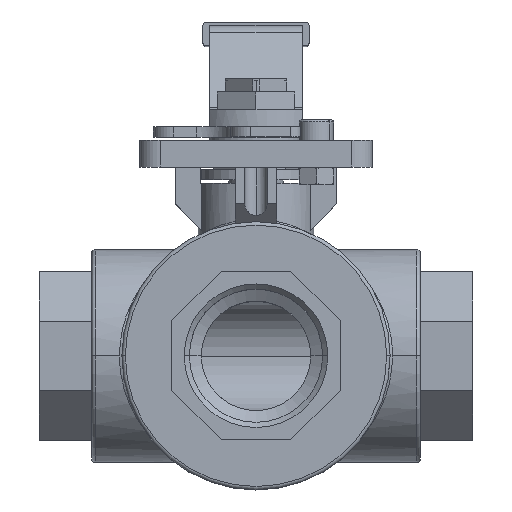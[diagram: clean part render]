
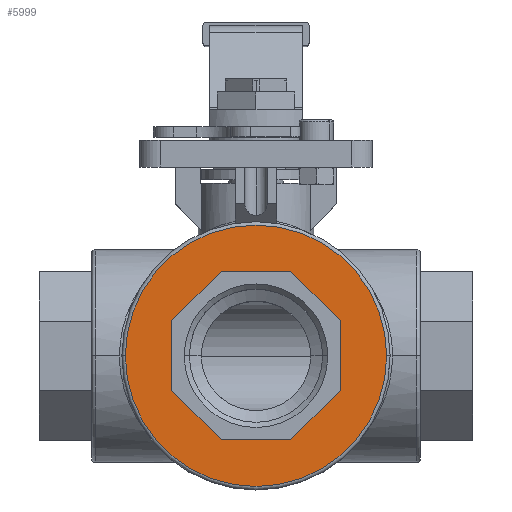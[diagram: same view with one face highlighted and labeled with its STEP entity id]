
A CAD part, top view. The second image highlights one B-rep face of the part: STEP entity #5999.
In plain terms, the highlighted planar face has unit normal (0, 0, 1).
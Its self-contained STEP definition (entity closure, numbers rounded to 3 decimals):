
#257 = VERTEX_POINT ( 'NONE', #2790 ) ;
#258 = VERTEX_POINT ( 'NONE', #2791 ) ;
#259 = VERTEX_POINT ( 'NONE', #2792 ) ;
#260 = VERTEX_POINT ( 'NONE', #2793 ) ;
#261 = VERTEX_POINT ( 'NONE', #2794 ) ;
#262 = VERTEX_POINT ( 'NONE', #2795 ) ;
#263 = VERTEX_POINT ( 'NONE', #2796 ) ;
#264 = VERTEX_POINT ( 'NONE', #2797 ) ;
#1187 = EDGE_LOOP ( 'NONE', ( #4721, #4720, #4719, #4718, #4717, #4716, #4715, #4714 ) ) ;
#1211 = EDGE_LOOP ( 'NONE', ( #4723, #4722 ) ) ;
#1866 = CARTESIAN_POINT ( 'NONE',  ( 10.19, 24.6, 48.15 ) ) ;
#1893 = LINE ( 'NONE', #1901, #7583 ) ;
#1894 = LINE ( 'NONE', #1904, #7585 ) ;
#1895 = LINE ( 'NONE', #1866, #7573 ) ;
#1896 = CARTESIAN_POINT ( 'NONE',  ( 0., 0., 48.15 ) ) ;
#1897 = DIRECTION ( 'NONE',  ( 0., 0., 1. ) ) ;
#1898 = DIRECTION ( 'NONE',  ( 1., 0., 0. ) ) ;
#1899 = LINE ( 'NONE', #1907, #7586 ) ;
#1900 = DIRECTION ( 'NONE',  ( -1., 0., 0. ) ) ;
#1901 = CARTESIAN_POINT ( 'NONE',  ( 24.6, 10.19, 48.15 ) ) ;
#1902 = LINE ( 'NONE', #1910, #7587 ) ;
#1903 = DIRECTION ( 'NONE',  ( -0.707, 0.707, 0. ) ) ;
#1904 = CARTESIAN_POINT ( 'NONE',  ( 24.6, -10.19, 48.15 ) ) ;
#1905 = LINE ( 'NONE', #1913, #7588 ) ;
#1906 = DIRECTION ( 'NONE',  ( 0., 1., 0. ) ) ;
#1907 = CARTESIAN_POINT ( 'NONE',  ( 10.19, -24.6, 48.15 ) ) ;
#1908 = LINE ( 'NONE', #1915, #7589 ) ;
#1909 = DIRECTION ( 'NONE',  ( 0.707, 0.707, 0. ) ) ;
#1910 = CARTESIAN_POINT ( 'NONE',  ( -10.19, -24.6, 48.15 ) ) ;
#1911 = LINE ( 'NONE', #1917, #7590 ) ;
#1912 = DIRECTION ( 'NONE',  ( 1., 0., 0. ) ) ;
#1913 = CARTESIAN_POINT ( 'NONE',  ( -24.6, -10.19, 48.15 ) ) ;
#1914 = DIRECTION ( 'NONE',  ( 0.707, -0.707, 0. ) ) ;
#1915 = CARTESIAN_POINT ( 'NONE',  ( -24.6, 10.19, 48.15 ) ) ;
#1916 = DIRECTION ( 'NONE',  ( 0., -1., 0. ) ) ;
#1917 = CARTESIAN_POINT ( 'NONE',  ( -10.19, 24.6, 48.15 ) ) ;
#1918 = DIRECTION ( 'NONE',  ( -0.707, -0.707, 0. ) ) ;
#2790 = CARTESIAN_POINT ( 'NONE',  ( 10.19, 24.6, 48.15 ) ) ;
#2791 = CARTESIAN_POINT ( 'NONE',  ( 10.19, -24.6, 48.15 ) ) ;
#2792 = CARTESIAN_POINT ( 'NONE',  ( -10.19, -24.6, 48.15 ) ) ;
#2793 = CARTESIAN_POINT ( 'NONE',  ( -10.19, 24.6, 48.15 ) ) ;
#2794 = CARTESIAN_POINT ( 'NONE',  ( 24.6, 10.19, 48.15 ) ) ;
#2795 = CARTESIAN_POINT ( 'NONE',  ( 24.6, -10.19, 48.15 ) ) ;
#2796 = CARTESIAN_POINT ( 'NONE',  ( -24.6, -10.19, 48.15 ) ) ;
#2797 = CARTESIAN_POINT ( 'NONE',  ( -24.6, 10.19, 48.15 ) ) ;
#3025 = CARTESIAN_POINT ( 'NONE',  ( 38.2, 0., 48.15 ) ) ;
#3026 = CARTESIAN_POINT ( 'NONE',  ( -38.2, 0., 48.15 ) ) ;
#3850 = CARTESIAN_POINT ( 'NONE',  ( 0., 0., 48.15 ) ) ;
#3851 = DIRECTION ( 'NONE',  ( 0., 0., 1. ) ) ;
#3852 = DIRECTION ( 'NONE',  ( 1., 0., 0. ) ) ;
#4653 = VERTEX_POINT ( 'NONE', #3025 ) ;
#4654 = VERTEX_POINT ( 'NONE', #3026 ) ;
#4714 = ORIENTED_EDGE ( 'NONE', *, *, #5561, .F. ) ;
#4715 = ORIENTED_EDGE ( 'NONE', *, *, #5560, .F. ) ;
#4716 = ORIENTED_EDGE ( 'NONE', *, *, #5559, .F. ) ;
#4717 = ORIENTED_EDGE ( 'NONE', *, *, #5558, .F. ) ;
#4718 = ORIENTED_EDGE ( 'NONE', *, *, #5557, .F. ) ;
#4719 = ORIENTED_EDGE ( 'NONE', *, *, #5556, .F. ) ;
#4720 = ORIENTED_EDGE ( 'NONE', *, *, #5555, .F. ) ;
#4721 = ORIENTED_EDGE ( 'NONE', *, *, #5554, .F. ) ;
#4722 = ORIENTED_EDGE ( 'NONE', *, *, #5553, .T. ) ;
#4723 = ORIENTED_EDGE ( 'NONE', *, *, #5755, .T. ) ;
#5553 = EDGE_CURVE ( 'NONE', #4654, #4653, #7582, .T. ) ;
#5554 = EDGE_CURVE ( 'NONE', #257, #260, #1895, .T. ) ;
#5555 = EDGE_CURVE ( 'NONE', #261, #257, #1893, .T. ) ;
#5556 = EDGE_CURVE ( 'NONE', #262, #261, #1894, .T. ) ;
#5557 = EDGE_CURVE ( 'NONE', #258, #262, #1899, .T. ) ;
#5558 = EDGE_CURVE ( 'NONE', #259, #258, #1902, .T. ) ;
#5559 = EDGE_CURVE ( 'NONE', #263, #259, #1905, .T. ) ;
#5560 = EDGE_CURVE ( 'NONE', #264, #263, #1908, .T. ) ;
#5561 = EDGE_CURVE ( 'NONE', #260, #264, #1911, .T. ) ;
#5755 = EDGE_CURVE ( 'NONE', #4653, #4654, #7839, .T. ) ;
#5999 = ADVANCED_FACE ( 'NONE', ( #8699, #8694 ), #8701, .T. ) ;
#7573 = VECTOR ( 'NONE', #1900, 1000. ) ;
#7582 = CIRCLE ( 'NONE', #7584, 38.2 ) ;
#7583 = VECTOR ( 'NONE', #1903, 1000. ) ;
#7584 = AXIS2_PLACEMENT_3D ( 'NONE', #1896, #1897, #1898 ) ;
#7585 = VECTOR ( 'NONE', #1906, 1000. ) ;
#7586 = VECTOR ( 'NONE', #1909, 1000. ) ;
#7587 = VECTOR ( 'NONE', #1912, 1000. ) ;
#7588 = VECTOR ( 'NONE', #1914, 1000. ) ;
#7589 = VECTOR ( 'NONE', #1916, 1000. ) ;
#7590 = VECTOR ( 'NONE', #1918, 1000. ) ;
#7839 = CIRCLE ( 'NONE', #7844, 38.2 ) ;
#7844 = AXIS2_PLACEMENT_3D ( 'NONE', #3850, #3851, #3852 ) ;
#8694 = FACE_BOUND ( 'NONE', #1187, .T. ) ;
#8696 = DIRECTION ( 'NONE',  ( 0., 0., 1. ) ) ;
#8698 = CARTESIAN_POINT ( 'NONE',  ( 0., 0., 48.15 ) ) ;
#8699 = FACE_OUTER_BOUND ( 'NONE', #1211, .T. ) ;
#8701 = PLANE ( 'NONE',  #9248 ) ;
#8703 = DIRECTION ( 'NONE',  ( 1., 0., 0. ) ) ;
#9248 = AXIS2_PLACEMENT_3D ( 'NONE', #8698, #8696, #8703 ) ;
